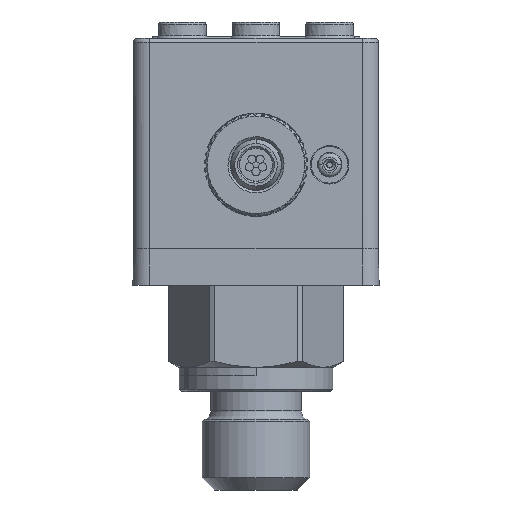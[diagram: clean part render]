
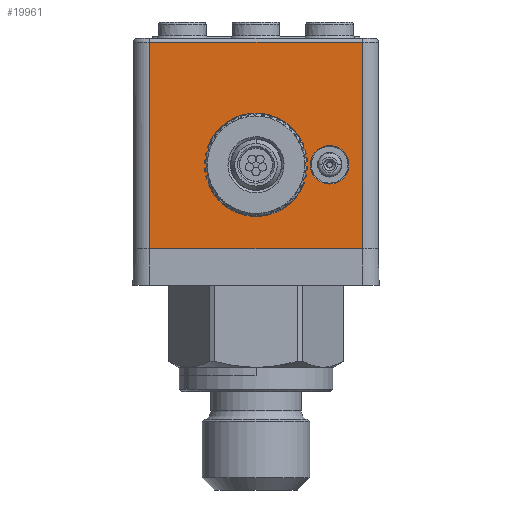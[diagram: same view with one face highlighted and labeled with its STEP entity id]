
A CAD part, front view. The second image highlights one B-rep face of the part: STEP entity #19961.
In plain terms, the highlighted planar face has unit normal (0, -1, 0).
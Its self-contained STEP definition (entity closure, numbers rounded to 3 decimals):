
#1006=DIRECTION('',(1.,0.,0.));
#1007=VECTOR('',#1006,26.);
#1008=CARTESIAN_POINT('',(-13.,-15.,
4.5));
#1009=LINE('',#1008,#1007);
#1018=DIRECTION('',(0.,0.,-1.));
#1019=VECTOR('',#1018,25.2);
#1020=CARTESIAN_POINT('',(-13.,-15.,29.7));
#1021=LINE('',#1020,#1019);
#1022=DIRECTION('',(1.,0.,0.));
#1023=VECTOR('',#1022,26.);
#1024=CARTESIAN_POINT('',(-13.,-15.,29.7));
#1025=LINE('',#1024,#1023);
#1026=DIRECTION('',(0.,0.,-1.));
#1027=VECTOR('',#1026,25.2);
#1028=CARTESIAN_POINT('',(13.,-15.,29.7));
#1029=LINE('',#1028,#1027);
#1030=CARTESIAN_POINT('',(0.,-15.,14.75));
#1031=DIRECTION('',(0.,-1.,0.));
#1032=DIRECTION('',(-0.898,0.,-0.44));
#1033=AXIS2_PLACEMENT_3D('',#1030,#1031,#1032);
#1035=DIRECTION('',(-0.017,0.,-1.));
#1036=VECTOR('',#1035,2.35);
#1037=CARTESIAN_POINT('',(5.8,-15.,14.75));
#1038=LINE('',#1037,#1036);
#1039=DIRECTION('',(0.017,0.,-1.));
#1040=VECTOR('',#1039,2.35);
#1041=CARTESIAN_POINT('',(5.759,-15.,17.1));
#1042=LINE('',#1041,#1040);
#1043=CARTESIAN_POINT('',(0.,-15.,14.75));
#1044=DIRECTION('',(0.,-1.,0.));
#1045=DIRECTION('',(0.898,0.,0.44));
#1046=AXIS2_PLACEMENT_3D('',#1043,#1044,#1045);
#1048=DIRECTION('',(0.017,0.,1.));
#1049=VECTOR('',#1048,2.35);
#1050=CARTESIAN_POINT('',(-5.8,-15.,14.75));
#1051=LINE('',#1050,#1049);
#1052=DIRECTION('',(-0.017,0.,1.));
#1053=VECTOR('',#1052,2.35);
#1054=CARTESIAN_POINT('',(-5.759,-15.,12.4));
#1055=LINE('',#1054,#1053);
#1056=CARTESIAN_POINT('',(9.,-15.,14.75));
#1057=DIRECTION('',(0.,1.,0.));
#1058=DIRECTION('',(-1.,0.,0.));
#1059=AXIS2_PLACEMENT_3D('',#1056,#1057,#1058);
#1061=CARTESIAN_POINT('',(9.,-15.,14.75));
#1062=DIRECTION('',(0.,1.,0.));
#1063=DIRECTION('',(1.,0.,0.));
#1064=AXIS2_PLACEMENT_3D('',#1061,#1062,#1063);
#5693=CARTESIAN_POINT('',(-4.759,-15.,17.083));
#5694=DIRECTION('',(0.,1.,0.));
#5695=DIRECTION('',(-1.,0.,0.017));
#5696=AXIS2_PLACEMENT_3D('',#5693,#5694,#5695);
#7061=CARTESIAN_POINT('',(4.759,-15.,12.417));
#7062=DIRECTION('',(0.,1.,0.));
#7063=DIRECTION('',(1.,0.,-0.017));
#7064=AXIS2_PLACEMENT_3D('',#7061,#7062,#7063);
#8408=CARTESIAN_POINT('',(4.759,-15.,17.083));
#8409=DIRECTION('',(0.,1.,0.));
#8410=DIRECTION('',(0.898,0.,0.44));
#8411=AXIS2_PLACEMENT_3D('',#8408,#8409,#8410);
#11996=CARTESIAN_POINT('',(-4.759,-15.,12.417));
#11997=DIRECTION('',(0.,1.,0.));
#11998=DIRECTION('',(-0.898,0.,-0.44));
#11999=AXIS2_PLACEMENT_3D('',#11996,#11997,#11998);
#16587=CARTESIAN_POINT('',(-13.,-15.,29.7));
#16588=VERTEX_POINT('',#16587);
#16591=CARTESIAN_POINT('',(13.,-15.,29.7));
#16592=VERTEX_POINT('',#16591);
#16693=CARTESIAN_POINT('',(6.643,-15.,14.75));
#16694=CARTESIAN_POINT('',(11.357,-15.,14.75));
#16695=VERTEX_POINT('',#16693);
#16696=VERTEX_POINT('',#16694);
#16908=CARTESIAN_POINT('',(5.759,-15.,17.1));
#16909=CARTESIAN_POINT('',(5.8,-15.,14.75));
#16910=VERTEX_POINT('',#16908);
#16911=VERTEX_POINT('',#16909);
#16912=CARTESIAN_POINT('',(5.759,-15.,12.4));
#16913=VERTEX_POINT('',#16912);
#16914=CARTESIAN_POINT('',(5.657,-15.,17.523));
#16915=VERTEX_POINT('',#16914);
#16916=CARTESIAN_POINT('',(5.657,-15.,11.977));
#16917=VERTEX_POINT('',#16916);
#16927=CARTESIAN_POINT('',(-5.657,-15.,17.523));
#16928=VERTEX_POINT('',#16927);
#16929=CARTESIAN_POINT('',(-5.657,-15.,11.977));
#16930=VERTEX_POINT('',#16929);
#16942=CARTESIAN_POINT('',(-5.759,-15.,12.4));
#16943=CARTESIAN_POINT('',(-5.8,-15.,14.75));
#16944=VERTEX_POINT('',#16942);
#16945=VERTEX_POINT('',#16943);
#16946=CARTESIAN_POINT('',(-5.759,-15.,17.1));
#16947=VERTEX_POINT('',#16946);
#17066=CARTESIAN_POINT('',(-13.,-15.,
4.5));
#17067=CARTESIAN_POINT('',(13.,-15.,
4.5));
#17068=VERTEX_POINT('',#17066);
#17069=VERTEX_POINT('',#17067);
#19920=CARTESIAN_POINT('',(-15.,-15.,2.9));
#19921=DIRECTION('',(0.,-1.,0.));
#19922=DIRECTION('',(1.,0.,0.));
#19923=AXIS2_PLACEMENT_3D('',#19920,#19921,#19922);
#19924=PLANE('',#19923);
#19926=ORIENTED_EDGE('',*,*,#19925,.F.);
#19928=ORIENTED_EDGE('',*,*,#19927,.T.);
#19929=ORIENTED_EDGE('',*,*,#19885,.T.);
#19930=ORIENTED_EDGE('',*,*,#19911,.F.);
#19931=EDGE_LOOP('',(#19926,#19928,#19929,#19930));
#19932=FACE_OUTER_BOUND('',#19931,.F.);
#19934=ORIENTED_EDGE('',*,*,#19933,.T.);
#19936=ORIENTED_EDGE('',*,*,#19935,.F.);
#19938=ORIENTED_EDGE('',*,*,#19937,.F.);
#19940=ORIENTED_EDGE('',*,*,#19939,.F.);
#19942=ORIENTED_EDGE('',*,*,#19941,.F.);
#19944=ORIENTED_EDGE('',*,*,#19943,.T.);
#19946=ORIENTED_EDGE('',*,*,#19945,.F.);
#19948=ORIENTED_EDGE('',*,*,#19947,.F.);
#19950=ORIENTED_EDGE('',*,*,#19949,.F.);
#19952=ORIENTED_EDGE('',*,*,#19951,.F.);
#19953=EDGE_LOOP('',(#19934,#19936,#19938,#19940,#19942,#19944,#19946,#19948,
#19950,#19952));
#19954=FACE_BOUND('',#19953,.F.);
#19956=ORIENTED_EDGE('',*,*,#19955,.F.);
#19958=ORIENTED_EDGE('',*,*,#19957,.F.);
#19959=EDGE_LOOP('',(#19956,#19958));
#19960=FACE_BOUND('',#19959,.F.);
#19961=ADVANCED_FACE('',(#19932,#19954,#19960),#19924,.T.);
#1034=CIRCLE('',#1033,6.3);
#1047=CIRCLE('',#1046,6.3);
#1060=CIRCLE('',#1059,2.357);
#1065=CIRCLE('',#1064,2.357);
#5697=CIRCLE('',#5696,1.);
#7065=CIRCLE('',#7064,1.);
#8412=CIRCLE('',#8411,1.);
#12000=CIRCLE('',#11999,1.);
#19885=EDGE_CURVE('',#16592,#17069,#1029,.T.);
#19911=EDGE_CURVE('',#17068,#17069,#1009,.T.);
#19925=EDGE_CURVE('',#16588,#17068,#1021,.T.);
#19927=EDGE_CURVE('',#16588,#16592,#1025,.T.);
#19933=EDGE_CURVE('',#16930,#16917,#1034,.T.);
#19935=EDGE_CURVE('',#16913,#16917,#7065,.T.);
#19937=EDGE_CURVE('',#16911,#16913,#1038,.T.);
#19939=EDGE_CURVE('',#16910,#16911,#1042,.T.);
#19941=EDGE_CURVE('',#16915,#16910,#8412,.T.);
#19943=EDGE_CURVE('',#16915,#16928,#1047,.T.);
#19945=EDGE_CURVE('',#16947,#16928,#5697,.T.);
#19947=EDGE_CURVE('',#16945,#16947,#1051,.T.);
#19949=EDGE_CURVE('',#16944,#16945,#1055,.T.);
#19951=EDGE_CURVE('',#16930,#16944,#12000,.T.);
#19955=EDGE_CURVE('',#16695,#16696,#1060,.T.);
#19957=EDGE_CURVE('',#16696,#16695,#1065,.T.);
